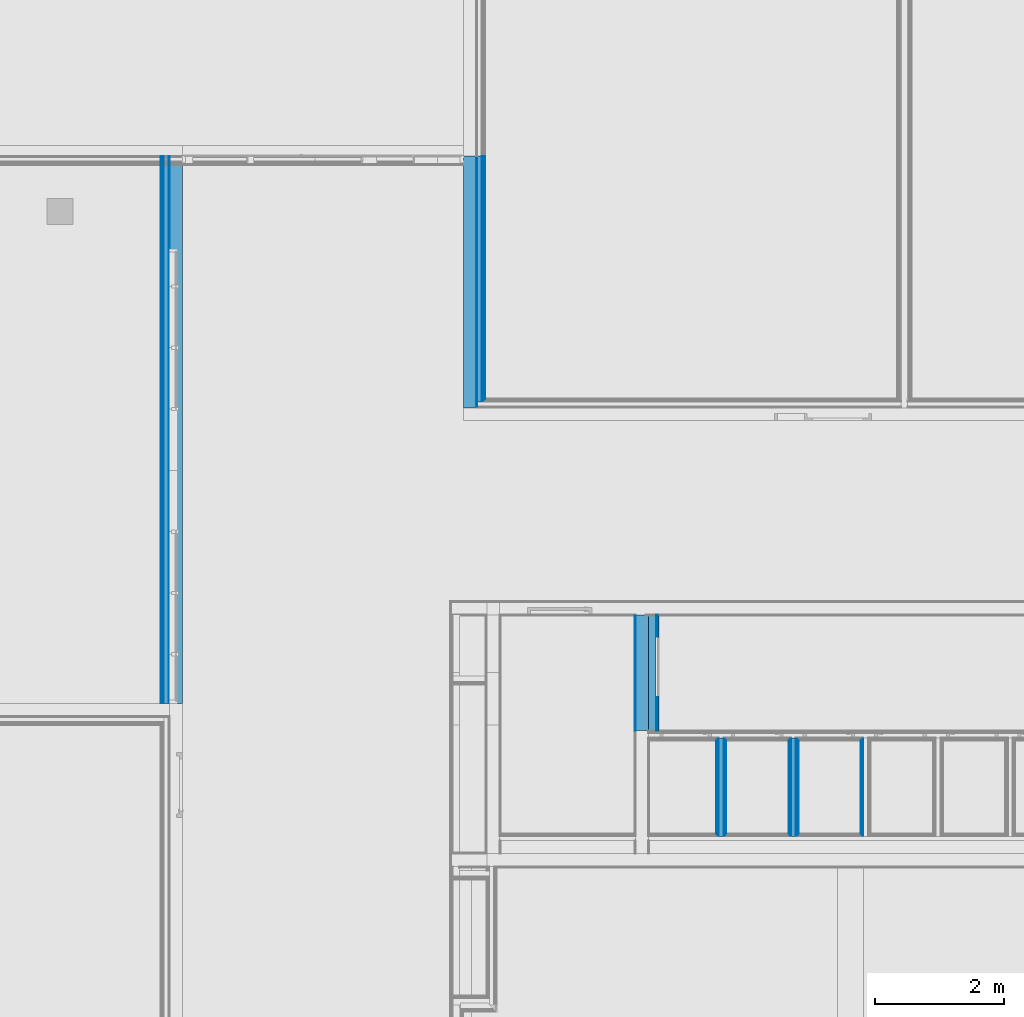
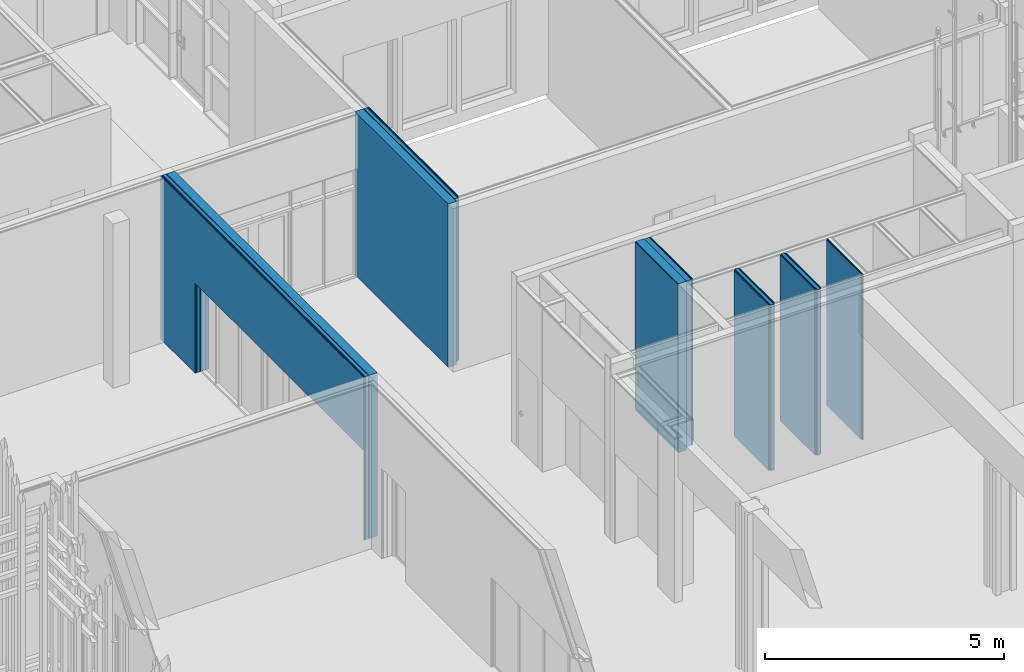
# One storey, part 182 of 260: 37 building element parts, 3 openings, 6 elements without a shape of their own.
"""IFC2X3 building model written with IfcOpenShell, lengths in millimetres."""

from ifc_helpers import new_model, entity, si_unit, converted_unit, derived_unit, money_unit, direction, frame, origin_with_axes, place, context, subcontext, project, spatial, faceted_brep, material, type_object, element, aggregate, save


model = new_model("IFC2X3")

# Units and contexts
model_context = context("Model", 3, precision=0.01, world=origin_with_axes(), true_north=direction((0.0, 1.0)))
body_context = subcontext(model_context, "Body", "Model", "MODEL_VIEW")
ifc_project = project(units=[si_unit("LENGTHUNIT", "METRE", prefix="MILLI"), si_unit("AREAUNIT", "SQUARE_METRE"), si_unit("VOLUMEUNIT", "CUBIC_METRE"), converted_unit("PLANEANGLEUNIT", "DEGREE", entity("IfcPlaneAngleMeasure", 0.0174532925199), si_unit("PLANEANGLEUNIT", "RADIAN"), dimensions=[0, 0, 0, 0, 0, 0, 0]), money_unit("EUR"), converted_unit("TIMEUNIT", "Year", entity("IfcTimeMeasure", 31556926.0), si_unit("TIMEUNIT", "SECOND"), dimensions=[0, 0, 1, 0, 0, 0, 0]), si_unit("MASSUNIT", "GRAM", prefix="KILO"), si_unit("THERMODYNAMICTEMPERATUREUNIT", "DEGREE_CELSIUS"), si_unit("LUMINOUSINTENSITYUNIT", "LUMEN"), si_unit("ENERGYUNIT", "JOULE", prefix="MEGA"), derived_unit("THERMALCONDUCTANCEUNIT", [(si_unit("POWERUNIT", "WATT"), 1), (si_unit("LENGTHUNIT", "METRE"), -1), (si_unit("THERMODYNAMICTEMPERATUREUNIT", "KELVIN"), -1)]), derived_unit("SPECIFICHEATCAPACITYUNIT", [(si_unit("ENERGYUNIT", "JOULE"), 1), (si_unit("MASSUNIT", "GRAM", prefix="KILO"), -1), (si_unit("THERMODYNAMICTEMPERATUREUNIT", "KELVIN"), -1)]), derived_unit("MASSDENSITYUNIT", [(si_unit("MASSUNIT", "GRAM", prefix="KILO"), 1), (si_unit("VOLUMEUNIT", "CUBIC_METRE"), -1)])], contexts=[model_context])

# Site, building, storey
site_placement = place(None, origin_with_axes())
site = spatial("IfcSite", under=ifc_project, at=site_placement, Name="Kolde pst 67a", CompositionType="ELEMENT")
building_placement = place(site_placement, origin_with_axes())
building = spatial("IfcBuilding", under=site, at=building_placement, Name="Riigigümnaasium", CompositionType="ELEMENT")
storey_placement = place(building_placement, origin_with_axes())
storey = spatial("IfcBuildingStorey", under=building, at=storey_placement, Name="1. korrus", CompositionType="ELEMENT", Elevation=0.0)

# Wall, opening, building element parts
wall_type_1 = type_object("IfcWallType", Name="SS-CLT-20/1_vill+krohv 340", PredefinedType="NOTDEFINED")
wall_1_placement = place(storey_placement, frame((31890.0027795, 48199.9805239, 0.0), z_axis=(0.0, 0.0, 1.0), x_axis=(0.0, 1.0, 0.0)))
wall_1 = element("IfcWall", 1, at=wall_1_placement, inside=storey, type_object=wall_type_1, Name="Sisesein")
opening_1_placement = place(wall_1_placement, frame((3520.61924472, 0.0, 0.0), z_axis=(0.0, 0.0, 1.0), x_axis=(1.0, 0.0, 0.0)))
element("IfcOpeningElement", 2, at=opening_1_placement, cuts=wall_1, Name="Ava", context=body_context, shape_type="Brep", body=[
    faceted_brep([(3519.14948544, 340.0, 0.0), (3519.14948544, 340.0, 2300.0), (3519.14948544, -680.0, 2300.0), (3519.14948544, -680.0, 0.0), (-3519.14948544, 340.0, 0.0), (-3519.14948544, 340.0, 2300.0), (-3519.14948544, -680.0, 2300.0), (-3519.14948544, -680.0, 0.0)], [[[0, 1, 2, 3]], [[0, 4, 5, 1]], [[1, 5, 6, 2]], [[3, 2, 6, 7]], [[4, 0, 3, 7]], [[5, 4, 7, 6]]]),
])
ifc_material_1 = material(Name="_VIIMISTLUSKIHT - viimistlus vastavalt SA osale")
building_element_part_1_placement = place(wall_1_placement, origin_with_axes())
building_element_part_1 = element("IfcBuildingElementPart", 3, at=building_element_part_1_placement, material=ifc_material_1, Name="_VIIMISTLUSKIHT - viimistlus vastavalt SA osale", context=body_context, shape_type="Brep", body=[
    faceted_brep([(1.4697592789, 330.0, 0.0), (1.4697592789, 330.0, 2300.0), (7039.76873016, 330.0, 2300.0), (7039.76873016, 330.0, 0.0), (8480.01742395, 330.0, 0.0), (8480.01742395, 330.0, 4170.0), (0.0, 330.0, 4170.0), (0.0, 330.0, 0.0), (1.4697592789, 340.0, 0.0), (1.4697592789, 340.0, 2300.0), (7039.76873016, 340.0, 2300.0), (7039.76873016, 340.0, 0.0), (8480.01742395, 340.0, 0.0), (8480.01742395, 340.0, 4170.0), (0.0, 340.0, 4170.0), (0.0, 340.0, 0.0)], [[[0, 1, 2, 3, 4, 5, 6, 7]], [[1, 0, 8, 9]], [[2, 1, 9, 10]], [[3, 2, 10, 11]], [[3, 11, 12, 4]], [[5, 4, 12, 13]], [[5, 13, 14, 6]], [[14, 15, 7, 6]], [[8, 0, 7, 15]], [[9, 8, 15, 14, 13, 12, 11, 10]]]),
])
ifc_material_2 = material(Name="_PLAATMATERJAL - tuletõkkekipsplaat, Knauf Red GKF või samaväärne")
building_element_part_2_placement = place(wall_1_placement, origin_with_axes())
building_element_part_2 = element("IfcBuildingElementPart", 4, at=building_element_part_2_placement, material=ifc_material_2, Name="_PLAATMATERJAL - tuletõkkekipsplaat, Knauf Red GKF või samaväärne", context=body_context, shape_type="Brep", body=[
    faceted_brep([(1.4697592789, 315.0, 0.0), (1.4697592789, 315.0, 2300.0), (7039.76873016, 315.0, 2300.0), (7039.76873016, 315.0, 0.0), (8480.01742395, 315.0, 0.0), (8480.01742395, 315.0, 4170.0), (0.0, 315.0, 4170.0), (0.0, 315.0, 0.0), (1.4697592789, 330.0, 0.0), (1.4697592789, 330.0, 2300.0), (7039.76873016, 330.0, 2300.0), (7039.76873016, 330.0, 0.0), (8480.01742395, 330.0, 0.0), (8480.01742395, 330.0, 4170.0), (0.0, 330.0, 4170.0), (0.0, 330.0, 0.0)], [[[0, 1, 2, 3, 4, 5, 6, 7]], [[1, 0, 8, 9]], [[2, 1, 9, 10]], [[3, 2, 10, 11]], [[3, 11, 12, 4]], [[5, 4, 12, 13]], [[5, 13, 14, 6]], [[14, 15, 7, 6]], [[8, 0, 7, 15]], [[9, 8, 15, 14, 13, 12, 11, 10]]]),
])
building_element_part_3_placement = place(wall_1_placement, origin_with_axes())
building_element_part_3 = element("IfcBuildingElementPart", 5, at=building_element_part_3_placement, material=ifc_material_2, Name="_PLAATMATERJAL - tuletõkkekipsplaat, Knauf Red GKF või samaväärne", context=body_context, shape_type="Brep", body=[
    faceted_brep([(1.4697592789, 300.0, 0.0), (1.4697592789, 300.0, 2300.0), (7039.76873016, 300.0, 2300.0), (7039.76873016, 300.0, 0.0), (8480.01742395, 300.0, 0.0), (8480.01742395, 300.0, 4170.0), (0.0, 300.0, 4170.0), (0.0, 300.0, 0.0), (1.4697592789, 315.0, 0.0), (1.4697592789, 315.0, 2300.0), (7039.76873016, 315.0, 2300.0), (7039.76873016, 315.0, 0.0), (8480.01742395, 315.0, 0.0), (8480.01742395, 315.0, 4170.0), (0.0, 315.0, 4170.0), (0.0, 315.0, 0.0)], [[[0, 1, 2, 3, 4, 5, 6, 7]], [[1, 0, 8, 9]], [[2, 1, 9, 10]], [[3, 2, 10, 11]], [[3, 11, 12, 4]], [[5, 4, 12, 13]], [[5, 13, 14, 6]], [[14, 15, 7, 6]], [[8, 0, 7, 15]], [[9, 8, 15, 14, 13, 12, 11, 10]]]),
])
ifc_material_3 = material(Name="_PLAATMATERJAL - OSB3 plaat")
building_element_part_4_placement = place(wall_1_placement, origin_with_axes())
building_element_part_4 = element("IfcBuildingElementPart", 6, at=building_element_part_4_placement, material=ifc_material_3, Name="_PLAATMATERJAL - OSB3 plaat", context=body_context, shape_type="Brep", body=[
    faceted_brep([(1.4697592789, 290.0, 0.0), (1.4697592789, 290.0, 2300.0), (7039.76873016, 290.0, 2300.0), (7039.76873016, 290.0, 0.0), (8480.01742395, 290.0, 0.0), (8480.01742395, 290.0, 4170.0), (0.0, 290.0, 4170.0), (0.0, 290.0, 0.0), (1.4697592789, 300.0, 0.0), (1.4697592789, 300.0, 2300.0), (7039.76873016, 300.0, 2300.0), (7039.76873016, 300.0, 0.0), (8480.01742395, 300.0, 0.0), (8480.01742395, 300.0, 4170.0), (0.0, 300.0, 4170.0), (0.0, 300.0, 0.0)], [[[0, 1, 2, 3, 4, 5, 6, 7]], [[1, 0, 8, 9]], [[2, 1, 9, 10]], [[3, 2, 10, 11]], [[3, 11, 12, 4]], [[5, 4, 12, 13]], [[5, 13, 14, 6]], [[14, 15, 7, 6]], [[8, 0, 7, 15]], [[9, 8, 15, 14, 13, 12, 11, 10]]]),
])
ifc_material_4 = material(Name="_KARKASS - metallkarkass CW 75/50/06 ja UW 75/40/06, samm 600, vahel mineraalvill, helineeldetegur αw = 1.0,  ISOVER ACOUSTIC 75mm või samaväärne")
building_element_part_5_placement = place(wall_1_placement, origin_with_axes())
building_element_part_5 = element("IfcBuildingElementPart", 7, at=building_element_part_5_placement, material=ifc_material_4, Name="_KARKASS - metallkarkass CW 75/50/06 ja UW 75/40/06, samm 600, vahel mineraalvill, helineeldetegur αw = 1.0,  ISOVER ACOUSTIC 75mm või samaväärne", context=body_context, shape_type="Brep", body=[
    faceted_brep([(1.4697592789, 215.0, 0.0), (1.4697592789, 215.0, 2300.0), (7039.76873016, 215.0, 2300.0), (7039.76873016, 215.0, 0.0), (8480.01742395, 215.0, 0.0), (8480.01742395, 215.0, 4170.0), (0.0, 215.0, 4170.0), (0.0, 215.0, 0.0), (1.4697592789, 290.0, 0.0), (1.4697592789, 290.0, 2300.0), (7039.76873016, 290.0, 2300.0), (7039.76873016, 290.0, 0.0), (8480.01742395, 290.0, 0.0), (8480.01742395, 290.0, 4170.0), (0.0, 290.0, 4170.0), (0.0, 290.0, 0.0)], [[[0, 1, 2, 3, 4, 5, 6, 7]], [[1, 0, 8, 9]], [[2, 1, 9, 10]], [[3, 2, 10, 11]], [[3, 11, 12, 4]], [[5, 4, 12, 13]], [[5, 13, 14, 6]], [[14, 15, 7, 6]], [[8, 0, 7, 15]], [[9, 8, 15, 14, 13, 12, 11, 10]]]),
])
ifc_material_5 = material(Name="_ÕHKVAHE")
building_element_part_6_placement = place(wall_1_placement, origin_with_axes())
building_element_part_6 = element("IfcBuildingElementPart", 8, at=building_element_part_6_placement, material=ifc_material_5, Name="_ÕHKVAHE", context=body_context, shape_type="Brep", body=[
    faceted_brep([(1.4697592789, 200.0, 0.0), (1.4697592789, 200.0, 2300.0), (7039.76873016, 200.0, 2300.0), (7039.76873016, 200.0, 0.0), (8480.01742395, 200.0, 0.0), (8480.01742395, 200.0, 4170.0), (0.0, 200.0, 4170.0), (0.0, 200.0, 0.0), (1.4697592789, 215.0, 0.0), (1.4697592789, 215.0, 2300.0), (7039.76873016, 215.0, 2300.0), (7039.76873016, 215.0, 0.0), (8480.01742395, 215.0, 0.0), (8480.01742395, 215.0, 4170.0), (0.0, 215.0, 4170.0), (0.0, 215.0, 0.0)], [[[0, 1, 2, 3, 4, 5, 6, 7]], [[1, 0, 8, 9]], [[2, 1, 9, 10]], [[3, 2, 10, 11]], [[3, 11, 12, 4]], [[5, 4, 12, 13]], [[5, 13, 14, 6]], [[14, 15, 7, 6]], [[8, 0, 7, 15]], [[9, 8, 15, 14, 13, 12, 11, 10]]]),
])
ifc_material_6 = material(Name="_KANDETARIND - CLT ristkihtliimpuit vastavalt EK osale, CLT paigaldusvuugid teibitakse ROTHOBLAAS teibiga")
building_element_part_7_placement = place(wall_1_placement, origin_with_axes())
building_element_part_7 = element("IfcBuildingElementPart", 9, at=building_element_part_7_placement, material=ifc_material_6, Name="_KANDETARIND - CLT ristkihtliimpuit vastavalt EK osale, CLT paigaldusvuugid teibitakse ROTHOBLAAS teibiga", context=body_context, shape_type="Brep", body=[
    faceted_brep([(1.4697592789, 0.0, 0.0), (1.4697592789, 0.0, 2300.0), (7039.76873016, 0.0, 2300.0), (7039.76873016, 0.0, 0.0), (8480.01742395, 0.0, 0.0), (8480.01742395, 0.0, 4170.0), (0.0, 0.0, 4170.0), (0.0, 0.0, 0.0), (1.4697592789, 200.0, 0.0), (1.4697592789, 200.0, 2300.0), (7039.76873016, 200.0, 2300.0), (7039.76873016, 200.0, 0.0), (8480.01742395, 200.0, 0.0), (8480.01742395, 200.0, 4170.0), (0.0, 200.0, 4170.0), (0.0, 200.0, 0.0)], [[[0, 1, 2, 3, 4, 5, 6, 7]], [[1, 0, 8, 9]], [[2, 1, 9, 10]], [[3, 2, 10, 11]], [[3, 11, 12, 4]], [[5, 4, 12, 13]], [[5, 13, 14, 6]], [[14, 15, 7, 6]], [[8, 0, 7, 15]], [[9, 8, 15, 14, 13, 12, 11, 10]]]),
])
aggregate(wall_1, [building_element_part_1, building_element_part_2, building_element_part_3, building_element_part_4, building_element_part_5, building_element_part_6, building_element_part_7])

# Wall, building element parts
wall_2_placement = place(storey_placement, frame((36439.99923, 56679.9979478, 0.0), z_axis=(0.0, 0.0, 1.0), x_axis=(0.0, -1.0, 0.0)))
wall_2 = element("IfcWall", 10, at=wall_2_placement, inside=storey, type_object=wall_type_1, Name="Sisesein")
building_element_part_8_placement = place(wall_2_placement, origin_with_axes())
building_element_part_8 = element("IfcBuildingElementPart", 11, at=building_element_part_8_placement, material=ifc_material_1, Name="_VIIMISTLUSKIHT - viimistlus vastavalt SA osale", context=body_context, shape_type="Brep", body=[
    faceted_brep([(0.0, 130.0, 4170.0), (0.0, 140.0, 4170.0), (0.0, 140.0, 0.0), (0.0, 130.0, 0.0), (3759.9977635, 140.0, 4170.0), (3759.9977635, 130.0, 4170.0), (3759.9977635, 140.0, 0.0), (3759.9977635, 130.0, 0.0)], [[[0, 1, 2, 3]], [[4, 1, 0, 5]], [[1, 4, 6, 2]], [[6, 7, 3, 2]], [[5, 0, 3, 7]], [[4, 5, 7, 6]]]),
])
building_element_part_9_placement = place(wall_2_placement, origin_with_axes())
building_element_part_9 = element("IfcBuildingElementPart", 12, at=building_element_part_9_placement, material=ifc_material_2, Name="_PLAATMATERJAL - tuletõkkekipsplaat, Knauf Red GKF või samaväärne", context=body_context, shape_type="Brep", body=[
    faceted_brep([(0.0, 115.0, 4170.0), (0.0, 130.0, 4170.0), (0.0, 130.0, 0.0), (0.0, 115.0, 0.0), (3769.9977635, 130.0, 4170.0), (3769.9977635, 115.0, 4170.0), (3769.9977635, 130.0, 0.0), (3769.9977635, 115.0, 0.0)], [[[0, 1, 2, 3]], [[4, 1, 0, 5]], [[1, 4, 6, 2]], [[6, 7, 3, 2]], [[5, 0, 3, 7]], [[4, 5, 7, 6]]]),
])
building_element_part_10_placement = place(wall_2_placement, origin_with_axes())
building_element_part_10 = element("IfcBuildingElementPart", 13, at=building_element_part_10_placement, material=ifc_material_2, Name="_PLAATMATERJAL - tuletõkkekipsplaat, Knauf Red GKF või samaväärne", context=body_context, shape_type="Brep", body=[
    faceted_brep([(0.0, 100.0, 4170.0), (0.0, 115.0, 4170.0), (0.0, 115.0, 0.0), (0.0, 100.0, 0.0), (3784.9977635, 115.0, 4170.0), (3784.9977635, 100.0, 4170.0), (3784.9977635, 115.0, 0.0), (3784.9977635, 100.0, 0.0)], [[[0, 1, 2, 3]], [[4, 1, 0, 5]], [[1, 4, 6, 2]], [[6, 7, 3, 2]], [[5, 0, 3, 7]], [[4, 5, 7, 6]]]),
])
building_element_part_11_placement = place(wall_2_placement, origin_with_axes())
building_element_part_11 = element("IfcBuildingElementPart", 14, at=building_element_part_11_placement, material=ifc_material_3, Name="_PLAATMATERJAL - OSB3 plaat", context=body_context, shape_type="Brep", body=[
    faceted_brep([(0.0, 90.0, 4170.0), (0.0, 100.0, 4170.0), (0.0, 100.0, 0.0), (0.0, 90.0, 0.0), (3799.9977635, 100.0, 4170.0), (3799.9977635, 90.0, 4170.0), (3799.9977635, 100.0, 0.0), (3799.9977635, 90.0, 0.0)], [[[0, 1, 2, 3]], [[4, 1, 0, 5]], [[1, 4, 6, 2]], [[6, 7, 3, 2]], [[5, 0, 3, 7]], [[4, 5, 7, 6]]]),
])
building_element_part_12_placement = place(wall_2_placement, origin_with_axes())
building_element_part_12 = element("IfcBuildingElementPart", 15, at=building_element_part_12_placement, material=ifc_material_4, Name="_KARKASS - metallkarkass CW 75/50/06 ja UW 75/40/06, samm 600, vahel mineraalvill, helineeldetegur αw = 1.0,  ISOVER ACOUSTIC 75mm või samaväärne", context=body_context, shape_type="Brep", body=[
    faceted_brep([(0.0, 15.0, 4170.0), (0.0, 90.0, 4170.0), (0.0, 90.0, 0.0), (0.0, 15.0, 0.0), (3809.9977635, 90.0, 4170.0), (3809.9977635, 15.0, 4170.0), (3809.9977635, 90.0, 0.0), (3809.9977635, 15.0, 0.0)], [[[0, 1, 2, 3]], [[4, 1, 0, 5]], [[1, 4, 6, 2]], [[6, 7, 3, 2]], [[5, 0, 3, 7]], [[4, 5, 7, 6]]]),
])
building_element_part_13_placement = place(wall_2_placement, origin_with_axes())
building_element_part_13 = element("IfcBuildingElementPart", 16, at=building_element_part_13_placement, material=ifc_material_5, Name="_ÕHKVAHE", context=body_context, shape_type="Brep", body=[
    faceted_brep([(0.0, 0.0, 4170.0), (0.0, 15.0, 4170.0), (0.0, 15.0, 0.0), (0.0, 0.0, 0.0), (3884.9977635, 15.0, 4170.0), (3884.9977635, 0.0, 4170.0), (3884.9977635, 15.0, 0.0), (3884.9977635, 0.0, 0.0)], [[[0, 1, 2, 3]], [[4, 1, 0, 5]], [[1, 4, 6, 2]], [[6, 7, 3, 2]], [[5, 0, 3, 7]], [[4, 5, 7, 6]]]),
])
building_element_part_14_placement = place(wall_2_placement, origin_with_axes())
building_element_part_14 = element("IfcBuildingElementPart", 17, at=building_element_part_14_placement, material=ifc_material_6, Name="_KANDETARIND - CLT ristkihtliimpuit vastavalt EK osale, CLT paigaldusvuugid teibitakse ROTHOBLAAS teibiga", context=body_context, shape_type="Brep", body=[
    faceted_brep([(0.0, -200.0, 4170.0), (0.0, 0.0, 4170.0), (0.0, 0.0, 0.0), (0.0, -200.0, 0.0), (3899.9977635, 0.0, 4170.0), (3899.9977635, -200.0, 4170.0), (3899.9977635, 0.0, 0.0), (3899.9977635, -200.0, 0.0)], [[[0, 1, 2, 3]], [[4, 1, 0, 5]], [[1, 4, 6, 2]], [[6, 7, 3, 2]], [[5, 0, 3, 7]], [[4, 5, 7, 6]]]),
])
aggregate(wall_2, [building_element_part_8, building_element_part_9, building_element_part_10, building_element_part_11, building_element_part_12, building_element_part_13, building_element_part_14])

wall_type_2 = type_object("IfcWallType", Name="SS-MK-7,5/1_plaaditud 155", PredefinedType="NOTDEFINED")
wall_3_placement = place(storey_placement, frame((42399.9854607, 46179.9999966, 0.0), z_axis=(0.0, 0.0, 1.0), x_axis=(0.0, 1.0, 0.0)))
wall_3 = element("IfcWall", 18, at=wall_3_placement, inside=storey, type_object=wall_type_2, Name="Sisesein")
building_element_part_15_placement = place(wall_3_placement, origin_with_axes())
building_element_part_15 = element("IfcBuildingElementPart", 19, at=building_element_part_15_placement, material=ifc_material_1, Name="_VIIMISTLUSKIHT - viimistlus vastavalt SA osale", context=body_context, shape_type="Brep", body=[
    faceted_brep([(1443.49996421, 0.0, 4230.0), (1443.49996421, -15.0, 4230.0), (1443.49996421, -15.0, 0.0), (1443.49996421, 0.0, 0.0), (0.0, -15.0, 4230.0), (0.0, 0.0, 4230.0), (0.0, -15.0, 0.0), (0.0, 0.0, 0.0)], [[[0, 1, 2, 3]], [[4, 1, 0, 5]], [[1, 4, 6, 2]], [[3, 2, 6, 7]], [[5, 0, 3, 7]], [[4, 5, 7, 6]]]),
])
ifc_material_7 = material(Name="_PLAATMATERJAL - kipsplaat veekindel")
building_element_part_16_placement = place(wall_3_placement, origin_with_axes())
building_element_part_16 = element("IfcBuildingElementPart", 20, at=building_element_part_16_placement, material=ifc_material_7, Name="_PLAATMATERJAL - kipsplaat veekindel", context=body_context, shape_type="Brep", body=[
    faceted_brep([(1458.49996421, -15.0, 4230.0), (1458.49996421, -27.5, 4230.0), (1458.49996421, -27.5, 0.0), (1458.49996421, -15.0, 0.0), (-15.0, -27.5, 4230.0), (-15.0, -15.0, 4230.0), (-15.0, -27.5, 0.0), (-15.0, -15.0, 0.0)], [[[0, 1, 2, 3]], [[4, 1, 0, 5]], [[1, 4, 6, 2]], [[3, 2, 6, 7]], [[5, 0, 3, 7]], [[4, 5, 7, 6]]]),
])
building_element_part_17_placement = place(wall_3_placement, origin_with_axes())
building_element_part_17 = element("IfcBuildingElementPart", 21, at=building_element_part_17_placement, material=ifc_material_7, Name="_PLAATMATERJAL - kipsplaat veekindel", context=body_context, shape_type="Brep", body=[
    faceted_brep([(1470.99996421, -27.5, 4230.0), (1470.99996421, -40.0, 4230.0), (1470.99996421, -40.0, 0.0), (1470.99996421, -27.5, 0.0), (-27.5, -40.0, 4230.0), (-27.5, -27.5, 4230.0), (-27.5, -40.0, 0.0), (-27.5, -27.5, 0.0)], [[[0, 1, 2, 3]], [[4, 1, 0, 5]], [[1, 4, 6, 2]], [[3, 2, 6, 7]], [[5, 0, 3, 7]], [[4, 5, 7, 6]]]),
])
aggregate(wall_3, [building_element_part_15, building_element_part_16, building_element_part_17])

wall_4_placement = place(storey_placement, frame((41279.9854607, 46179.9999966, 0.0), z_axis=(0.0, 0.0, 1.0), x_axis=(0.0, 1.0, 0.0)))
wall_4 = element("IfcWall", 22, at=wall_4_placement, inside=storey, type_object=wall_type_2, Name="Sisesein")
building_element_part_18_placement = place(wall_4_placement, origin_with_axes())
building_element_part_18 = element("IfcBuildingElementPart", 23, at=building_element_part_18_placement, material=ifc_material_1, Name="_VIIMISTLUSKIHT - viimistlus vastavalt SA osale", context=body_context, shape_type="Brep", body=[
    faceted_brep([(1443.49996421, 0.0, 4230.0), (1443.49996421, -15.0, 4230.0), (1443.49996421, -15.0, 0.0), (1443.49996421, 0.0, 0.0), (0.0, -15.0, 4230.0), (0.0, 0.0, 4230.0), (0.0, -15.0, 0.0), (0.0, 0.0, 0.0)], [[[0, 1, 2, 3]], [[4, 1, 0, 5]], [[1, 4, 6, 2]], [[3, 2, 6, 7]], [[5, 0, 3, 7]], [[4, 5, 7, 6]]]),
])
building_element_part_19_placement = place(wall_4_placement, origin_with_axes())
building_element_part_19 = element("IfcBuildingElementPart", 24, at=building_element_part_19_placement, material=ifc_material_7, Name="_PLAATMATERJAL - kipsplaat veekindel", context=body_context, shape_type="Brep", body=[
    faceted_brep([(1458.49996421, -15.0, 4230.0), (1458.49996421, -27.5, 4230.0), (1458.49996421, -27.5, 0.0), (1458.49996421, -15.0, 0.0), (-15.0, -27.5, 4230.0), (-15.0, -15.0, 4230.0), (-15.0, -27.5, 0.0), (-15.0, -15.0, 0.0)], [[[0, 1, 2, 3]], [[4, 1, 0, 5]], [[1, 4, 6, 2]], [[3, 2, 6, 7]], [[5, 0, 3, 7]], [[4, 5, 7, 6]]]),
])
building_element_part_20_placement = place(wall_4_placement, origin_with_axes())
building_element_part_20 = element("IfcBuildingElementPart", 25, at=building_element_part_20_placement, material=ifc_material_7, Name="_PLAATMATERJAL - kipsplaat veekindel", context=body_context, shape_type="Brep", body=[
    faceted_brep([(1470.99996421, -27.5, 4230.0), (1470.99996421, -40.0, 4230.0), (1470.99996421, -40.0, 0.0), (1470.99996421, -27.5, 0.0), (-27.5, -40.0, 4230.0), (-27.5, -27.5, 4230.0), (-27.5, -40.0, 0.0), (-27.5, -27.5, 0.0)], [[[0, 1, 2, 3]], [[4, 1, 0, 5]], [[1, 4, 6, 2]], [[3, 2, 6, 7]], [[5, 0, 3, 7]], [[4, 5, 7, 6]]]),
])
ifc_material_8 = material(Name="_KARKASS - metallkarkass CW 75/50, mineraalvill karkassi vahel")
building_element_part_21_placement = place(wall_4_placement, origin_with_axes())
building_element_part_21 = element("IfcBuildingElementPart", 26, at=building_element_part_21_placement, material=ifc_material_8, Name="_KARKASS - metallkarkass CW 75/50, mineraalvill karkassi vahel", context=body_context, shape_type="Brep", body=[
    faceted_brep([(1483.49996421, -40.0, 4230.0), (1483.49996421, -115.0, 4230.0), (1483.49996421, -115.0, 0.0), (1483.49996421, -40.0, 0.0), (-40.0, -115.0, 4230.0), (-40.0, -40.0, 4230.0), (-40.0, -115.0, 0.0), (-40.0, -40.0, 0.0)], [[[0, 1, 2, 3]], [[4, 1, 0, 5]], [[1, 4, 6, 2]], [[3, 2, 6, 7]], [[5, 0, 3, 7]], [[4, 5, 7, 6]]]),
])
building_element_part_22_placement = place(wall_4_placement, origin_with_axes())
building_element_part_22 = element("IfcBuildingElementPart", 27, at=building_element_part_22_placement, material=ifc_material_7, Name="_PLAATMATERJAL - kipsplaat veekindel", context=body_context, shape_type="Brep", body=[
    faceted_brep([(1470.99996421, -115.0, 4230.0), (1470.99996421, -127.5, 4230.0), (1470.99996421, -127.5, 0.0), (1470.99996421, -115.0, 0.0), (-27.5, -127.5, 4230.0), (-27.5, -115.0, 4230.0), (-27.5, -127.5, 0.0), (-27.5, -115.0, 0.0)], [[[0, 1, 2, 3]], [[4, 1, 0, 5]], [[1, 4, 6, 2]], [[3, 2, 6, 7]], [[5, 0, 3, 7]], [[4, 5, 7, 6]]]),
])
building_element_part_23_placement = place(wall_4_placement, origin_with_axes())
building_element_part_23 = element("IfcBuildingElementPart", 28, at=building_element_part_23_placement, material=ifc_material_7, Name="_PLAATMATERJAL - kipsplaat veekindel", context=body_context, shape_type="Brep", body=[
    faceted_brep([(1458.49996421, -127.5, 4230.0), (1458.49996421, -140.0, 4230.0), (1458.49996421, -140.0, 0.0), (1458.49996421, -127.5, 0.0), (-15.0, -140.0, 4230.0), (-15.0, -127.5, 4230.0), (-15.0, -140.0, 0.0), (-15.0, -127.5, 0.0)], [[[0, 1, 2, 3]], [[4, 1, 0, 5]], [[1, 4, 6, 2]], [[3, 2, 6, 7]], [[5, 0, 3, 7]], [[4, 5, 7, 6]]]),
])
building_element_part_24_placement = place(wall_4_placement, origin_with_axes())
building_element_part_24 = element("IfcBuildingElementPart", 29, at=building_element_part_24_placement, material=ifc_material_1, Name="_VIIMISTLUSKIHT - viimistlus vastavalt SA osale", context=body_context, shape_type="Brep", body=[
    faceted_brep([(1443.49996421, -140.0, 4230.0), (1443.49996421, -155.0, 4230.0), (1443.49996421, -155.0, 0.0), (1443.49996421, -140.0, 0.0), (0.0, -155.0, 4230.0), (0.0, -140.0, 4230.0), (0.0, -155.0, 0.0), (0.0, -140.0, 0.0)], [[[0, 1, 2, 3]], [[4, 1, 0, 5]], [[1, 4, 6, 2]], [[3, 2, 6, 7]], [[5, 0, 3, 7]], [[4, 5, 7, 6]]]),
])
aggregate(wall_4, [building_element_part_18, building_element_part_19, building_element_part_20, building_element_part_21, building_element_part_22, building_element_part_23, building_element_part_24])

wall_5_placement = place(storey_placement, frame((40159.9854607, 46179.9999966, 0.0), z_axis=(0.0, 0.0, 1.0), x_axis=(0.0, 1.0, 0.0)))
wall_5 = element("IfcWall", 30, at=wall_5_placement, inside=storey, type_object=wall_type_2, Name="Sisesein")
building_element_part_25_placement = place(wall_5_placement, origin_with_axes())
building_element_part_25 = element("IfcBuildingElementPart", 31, at=building_element_part_25_placement, material=ifc_material_1, Name="_VIIMISTLUSKIHT - viimistlus vastavalt SA osale", context=body_context, shape_type="Brep", body=[
    faceted_brep([(1443.49996421, 0.0, 4230.0), (1443.49996421, -15.0, 4230.0), (1443.49996421, -15.0, 0.0), (1443.49996421, 0.0, 0.0), (0.0, -15.0, 4230.0), (0.0, 0.0, 4230.0), (0.0, -15.0, 0.0), (0.0, 0.0, 0.0)], [[[0, 1, 2, 3]], [[4, 1, 0, 5]], [[1, 4, 6, 2]], [[3, 2, 6, 7]], [[5, 0, 3, 7]], [[4, 5, 7, 6]]]),
])
building_element_part_26_placement = place(wall_5_placement, origin_with_axes())
building_element_part_26 = element("IfcBuildingElementPart", 32, at=building_element_part_26_placement, material=ifc_material_7, Name="_PLAATMATERJAL - kipsplaat veekindel", context=body_context, shape_type="Brep", body=[
    faceted_brep([(1458.49996421, -15.0, 4230.0), (1458.49996421, -27.5, 4230.0), (1458.49996421, -27.5, 0.0), (1458.49996421, -15.0, 0.0), (-15.0, -27.5, 4230.0), (-15.0, -15.0, 4230.0), (-15.0, -27.5, 0.0), (-15.0, -15.0, 0.0)], [[[0, 1, 2, 3]], [[4, 1, 0, 5]], [[1, 4, 6, 2]], [[3, 2, 6, 7]], [[5, 0, 3, 7]], [[4, 5, 7, 6]]]),
])
building_element_part_27_placement = place(wall_5_placement, origin_with_axes())
building_element_part_27 = element("IfcBuildingElementPart", 33, at=building_element_part_27_placement, material=ifc_material_7, Name="_PLAATMATERJAL - kipsplaat veekindel", context=body_context, shape_type="Brep", body=[
    faceted_brep([(1470.99996421, -27.5, 4230.0), (1470.99996421, -40.0, 4230.0), (1470.99996421, -40.0, 0.0), (1470.99996421, -27.5, 0.0), (-27.5, -40.0, 4230.0), (-27.5, -27.5, 4230.0), (-27.5, -40.0, 0.0), (-27.5, -27.5, 0.0)], [[[0, 1, 2, 3]], [[4, 1, 0, 5]], [[1, 4, 6, 2]], [[3, 2, 6, 7]], [[5, 0, 3, 7]], [[4, 5, 7, 6]]]),
])
building_element_part_28_placement = place(wall_5_placement, origin_with_axes())
building_element_part_28 = element("IfcBuildingElementPart", 34, at=building_element_part_28_placement, material=ifc_material_8, Name="_KARKASS - metallkarkass CW 75/50, mineraalvill karkassi vahel", context=body_context, shape_type="Brep", body=[
    faceted_brep([(1483.49996421, -40.0, 4230.0), (1483.49996421, -115.0, 4230.0), (1483.49996421, -115.0, 0.0), (1483.49996421, -40.0, 0.0), (-40.0, -115.0, 4230.0), (-40.0, -40.0, 4230.0), (-40.0, -115.0, 0.0), (-40.0, -40.0, 0.0)], [[[0, 1, 2, 3]], [[4, 1, 0, 5]], [[1, 4, 6, 2]], [[3, 2, 6, 7]], [[5, 0, 3, 7]], [[4, 5, 7, 6]]]),
])
building_element_part_29_placement = place(wall_5_placement, origin_with_axes())
building_element_part_29 = element("IfcBuildingElementPart", 35, at=building_element_part_29_placement, material=ifc_material_7, Name="_PLAATMATERJAL - kipsplaat veekindel", context=body_context, shape_type="Brep", body=[
    faceted_brep([(1470.99996421, -115.0, 4230.0), (1470.99996421, -127.5, 4230.0), (1470.99996421, -127.5, 0.0), (1470.99996421, -115.0, 0.0), (-27.5, -127.5, 4230.0), (-27.5, -115.0, 4230.0), (-27.5, -127.5, 0.0), (-27.5, -115.0, 0.0)], [[[0, 1, 2, 3]], [[4, 1, 0, 5]], [[1, 4, 6, 2]], [[3, 2, 6, 7]], [[5, 0, 3, 7]], [[4, 5, 7, 6]]]),
])
building_element_part_30_placement = place(wall_5_placement, origin_with_axes())
building_element_part_30 = element("IfcBuildingElementPart", 36, at=building_element_part_30_placement, material=ifc_material_7, Name="_PLAATMATERJAL - kipsplaat veekindel", context=body_context, shape_type="Brep", body=[
    faceted_brep([(1458.49996421, -127.5, 4230.0), (1458.49996421, -140.0, 4230.0), (1458.49996421, -140.0, 0.0), (1458.49996421, -127.5, 0.0), (-15.0, -140.0, 4230.0), (-15.0, -127.5, 4230.0), (-15.0, -140.0, 0.0), (-15.0, -127.5, 0.0)], [[[0, 1, 2, 3]], [[4, 1, 0, 5]], [[1, 4, 6, 2]], [[3, 2, 6, 7]], [[5, 0, 3, 7]], [[4, 5, 7, 6]]]),
])
building_element_part_31_placement = place(wall_5_placement, origin_with_axes())
building_element_part_31 = element("IfcBuildingElementPart", 37, at=building_element_part_31_placement, material=ifc_material_1, Name="_VIIMISTLUSKIHT - viimistlus vastavalt SA osale", context=body_context, shape_type="Brep", body=[
    faceted_brep([(1443.49996421, -140.0, 4230.0), (1443.49996421, -155.0, 4230.0), (1443.49996421, -155.0, 0.0), (1443.49996421, -140.0, 0.0), (0.0, -155.0, 4230.0), (0.0, -140.0, 4230.0), (0.0, -155.0, 0.0), (0.0, -140.0, 0.0)], [[[0, 1, 2, 3]], [[4, 1, 0, 5]], [[1, 4, 6, 2]], [[3, 2, 6, 7]], [[5, 0, 3, 7]], [[4, 5, 7, 6]]]),
])
aggregate(wall_5, [building_element_part_25, building_element_part_26, building_element_part_27, building_element_part_28, building_element_part_29, building_element_part_30, building_element_part_31])

# Wall, openings, building element parts
wall_type_3 = type_object("IfcWallType", Name="SS-RB-20/12_+2 plaat +kollektor 375", PredefinedType="NOTDEFINED")
wall_6_placement = place(storey_placement, frame((39109.8305113, 47778.4999608, -80.0), z_axis=(0.0, 0.0, 1.0), x_axis=(0.0, 1.0, 0.0)))
wall_6 = element("IfcWall", 38, at=wall_6_placement, inside=storey, type_object=wall_type_3, Name="Sisesein")
opening_2_placement = place(wall_6_placement, frame((-47778.4999608, 39109.8305113, 80.0), z_axis=(0.0, 0.0, 1.0), x_axis=(0.0, -1.0, 0.0)))
element("IfcOpeningElement", 39, at=opening_2_placement, cuts=wall_6, Name="Tulekustuti nišš vastavalt SA osale", ObjectType="OPENING", context=body_context, shape_type="Brep", body=[
    faceted_brep([(39269.8305113, 49320.0, 780.0), (39269.8305113, 49320.0, 2100.0), (39069.8305113, 49320.0, 2100.0), (39069.8305113, 49320.0, 780.0), (39269.8305113, 49570.0, 780.0), (39269.8305113, 49570.0, 2100.0), (39069.8305113, 49570.0, 2100.0), (39069.8305113, 49570.0, 780.0)], [[[0, 1, 2, 3]], [[0, 4, 5, 1]], [[1, 5, 6, 2]], [[3, 2, 6, 7]], [[4, 0, 3, 7]], [[5, 4, 7, 6]]]),
])
opening_3_placement = place(wall_6_placement, frame((-47778.4999608, 39109.8305113, 80.0), z_axis=(0.0, 0.0, 1.0), x_axis=(0.0, -1.0, 0.0)))
element("IfcOpeningElement", 40, at=opening_3_placement, cuts=wall_6, Name="Tulekustuti nišš vastavalt SA osale", ObjectType="OPENING", context=body_context, shape_type="Brep", body=[
    faceted_brep([(39269.8305113, 48319.9999599, 0.0), (39269.8305113, 48319.9999599, 900.0), (39109.8305113, 48319.9999599, 900.0), (39109.8305113, 48319.9999599, 0.0), (39269.8305113, 49219.9999599, 0.0), (39269.8305113, 49219.9999599, 900.0), (39109.8305113, 49219.9999599, 900.0), (39109.8305113, 49219.9999599, 0.0)], [[[0, 1, 2, 3]], [[0, 4, 5, 1]], [[1, 5, 6, 2]], [[3, 2, 6, 7]], [[4, 0, 3, 7]], [[5, 4, 7, 6]]]),
])
building_element_part_32_placement = place(wall_6_placement, origin_with_axes())
building_element_part_32 = element("IfcBuildingElementPart", 41, at=building_element_part_32_placement, material=ifc_material_1, Name="_VIIMISTLUSKIHT - viimistlus vastavalt SA osale", context=body_context, shape_type="Brep", body=[
    faceted_brep([(0.0, 200.0, 80.0), (1776.49999905, 200.0, 80.0), (1776.49999905, 200.0, 4310.0), (0.0, 200.0, 4310.0), (1776.49999905, 215.0, 80.0), (0.0, 215.0, 80.0), (1776.49999905, 215.0, 4310.0), (0.0, 215.0, 4310.0)], [[[0, 1, 2, 3]], [[4, 1, 0, 5]], [[1, 4, 6, 2]], [[3, 2, 6, 7]], [[5, 0, 3, 7]], [[4, 5, 7, 6]]]),
])
ifc_material_9 = material(Name="_KANDETARIND - monteeritav raudbetoon vastavalt EK osale")
building_element_part_33_placement = place(wall_6_placement, origin_with_axes())
building_element_part_33 = element("IfcBuildingElementPart", 42, at=building_element_part_33_placement, material=ifc_material_9, Name="_KANDETARIND - monteeritav raudbetoon vastavalt EK osale", context=body_context, shape_type="Brep", body=[
    faceted_brep([(1791.5000392, 200.0, 4310.0), (1791.5000392, 0.0, 4310.0), (1791.49999905, 0.0, 2180.0), (1791.49999905, 40.0, 2180.0), (1791.49999905, 40.0, 860.0), (1791.49999905, 0.0, 860.0), (1791.49999905, 0.0, 0.0), (1791.49999905, 200.0, 0.0), (0.0, 0.0, 4310.0), (0.0, 200.0, 4310.0), (0.0, 0.0, 0.0), (1541.5000392, 0.0, 860.0), (1541.5000392, 0.0, 2180.0), (1541.5000392, 40.0, 2180.0), (1541.5000392, 40.0, 860.0), (0.0, 200.0, 0.0)], [[[0, 1, 2, 3, 4, 5, 6, 7]], [[8, 1, 0, 9]], [[1, 8, 10, 6, 5, 11, 12, 2]], [[3, 2, 12, 13]], [[4, 3, 13, 14]], [[14, 11, 5, 4]], [[7, 6, 10, 15]], [[9, 0, 7, 15]], [[8, 9, 15, 10]], [[13, 12, 11, 14]]]),
])
ifc_material_10 = material(Name="_KARKASS - eriprofiilkinnitus vastavalt sisemisele plaatviimistlusele")
building_element_part_34_placement = place(wall_6_placement, origin_with_axes())
building_element_part_34 = element("IfcBuildingElementPart", 43, at=building_element_part_34_placement, material=ifc_material_10, Name="_KARKASS - eriprofiilkinnitus vastavalt sisemisele plaatviimistlusele", context=body_context, shape_type="Brep", body=[
    faceted_brep([(1441.49999905, -120.0, 980.0), (1441.49999905, -120.0, 80.0), (1791.49999905, -120.0, 80.0), (1791.49999905, -120.0, 860.0), (1541.5000392, -120.0, 860.0), (1541.5000392, -120.0, 2180.0), (1791.49999905, -120.0, 2180.0), (1791.49999905, -120.0, 4250.0), (1776.49999905, -120.0, 4250.0), (1776.50000565, -120.0, 4310.0), (0.0, -120.0, 4310.0), (0.0, -120.0, 80.0), (541.499999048, -120.0, 80.0), (541.499999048, -120.0, 980.0), (1441.49999905, 1.37134748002e-09, 980.0), (1441.49999905, 1.37134748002e-09, 80.0), (1791.49999905, 0.0, 80.0), (1791.49999905, 0.0, 860.0), (1541.5000392, 0.0, 860.0), (1541.5000392, 0.0, 2180.0), (1791.49999905, 0.0, 2180.0), (1791.49999905, 0.0, 4250.0), (1776.49999905, 0.0, 4250.0), (1776.50000577, 0.0, 4310.0), (0.0, 0.0, 4310.0), (0.0, 0.0, 80.0), (541.499999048, 1.37134748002e-09, 80.0), (541.499999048, 1.37134748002e-09, 980.0)], [[[0, 1, 2, 3, 4, 5, 6, 7, 8, 9, 10, 11, 12, 13]], [[14, 15, 1, 0]], [[15, 16, 2, 1]], [[3, 2, 16, 17]], [[17, 18, 4, 3]], [[18, 19, 5, 4]], [[19, 20, 6, 5]], [[20, 21, 7, 6]], [[22, 8, 7, 21]], [[22, 23, 9, 8]], [[24, 10, 9, 23]], [[24, 25, 11, 10]], [[25, 26, 12, 11]], [[13, 12, 26, 27]], [[27, 14, 0, 13]], [[17, 16, 15, 14, 27, 26, 25, 24, 23, 22, 21, 20, 19, 18]]]),
])
building_element_part_35_placement = place(wall_6_placement, origin_with_axes())
building_element_part_35 = element("IfcBuildingElementPart", 44, at=building_element_part_35_placement, material=ifc_material_7, Name="_PLAATMATERJAL - kipsplaat veekindel", context=body_context, shape_type="Brep", body=[
    faceted_brep([(541.499986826, -132.499994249, 980.0), (541.499986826, -132.499994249, 1580.0), (1441.50000496, -132.499994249, 1580.0), (1441.50000496, -132.499994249, 980.0), (1441.49999905, -132.5, 80.0), (1791.49999905, -132.5, 80.0), (1791.49999905, -132.5, 860.0), (1541.5000392, -132.5, 860.0), (1541.5000392, -132.5, 2180.0), (1791.49999905, -132.5, 2180.0), (1791.49999905, -132.5, 4250.0), (1776.49999905, -132.5, 4250.0), (1776.50000564, -132.5, 4310.0), (0.0, -132.5, 4310.0), (0.0, -132.5, 80.0), (541.499999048, -132.5, 80.0), (541.499986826, -119.999994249, 980.0), (541.499986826, -119.999994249, 1580.0), (1441.50000496, -119.999994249, 1580.0), (1441.50000496, -119.999994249, 980.0), (1441.49999905, -120.0, 80.0), (1791.49999905, -120.0, 80.0), (1791.49999905, -120.0, 860.0), (1541.5000392, -120.0, 860.0), (1541.5000392, -120.0, 2180.0), (1791.49999905, -120.0, 2180.0), (1791.49999905, -120.0, 4250.0), (1776.49999905, -120.0, 4250.0), (1776.50000565, -120.0, 4310.0), (0.0, -120.0, 4310.0), (0.0, -120.0, 80.0), (541.499999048, -120.0, 80.0)], [[[0, 1, 2, 3, 4, 5, 6, 7, 8, 9, 10, 11, 12, 13, 14, 15]], [[1, 0, 16, 17]], [[2, 1, 17, 18]], [[3, 2, 18, 19]], [[3, 19, 20, 4]], [[20, 21, 5, 4]], [[6, 5, 21, 22]], [[22, 23, 7, 6]], [[23, 24, 8, 7]], [[24, 25, 9, 8]], [[25, 26, 10, 9]], [[27, 11, 10, 26]], [[27, 28, 12, 11]], [[29, 13, 12, 28]], [[29, 30, 14, 13]], [[30, 31, 15, 14]], [[16, 0, 15, 31]], [[17, 16, 31, 30, 29, 28, 27, 26, 25, 24, 23, 22, 21, 20, 19, 18]]]),
])
building_element_part_36_placement = place(wall_6_placement, origin_with_axes())
building_element_part_36 = element("IfcBuildingElementPart", 45, at=building_element_part_36_placement, material=ifc_material_7, Name="_PLAATMATERJAL - kipsplaat veekindel", context=body_context, shape_type="Brep", body=[
    faceted_brep([(541.499986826, -144.999994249, 980.0), (541.499986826, -144.999994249, 1580.0), (1441.50000496, -144.999994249, 1580.0), (1441.50000496, -144.999994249, 980.0), (1441.49999905, -145.0, 80.0), (1791.49999905, -145.0, 80.0), (1791.49999905, -145.0, 860.0), (1541.5000392, -145.0, 860.0), (1541.5000392, -145.0, 2180.0), (1791.49999905, -145.0, 2180.0), (1791.49999905, -145.0, 4250.0), (1776.49999905, -145.0, 4250.0), (1776.50000563, -145.0, 4310.0), (0.0, -145.0, 4310.0), (0.0, -145.0, 80.0), (541.499999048, -145.0, 80.0), (541.499986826, -132.499994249, 980.0), (541.499986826, -132.499994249, 1580.0), (1441.50000496, -132.499994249, 1580.0), (1441.50000496, -132.499994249, 980.0), (1441.49999905, -132.5, 80.0), (1791.49999905, -132.5, 80.0), (1791.49999905, -132.5, 860.0), (1541.5000392, -132.5, 860.0), (1541.5000392, -132.5, 2180.0), (1791.49999905, -132.5, 2180.0), (1791.49999905, -132.5, 4250.0), (1776.49999905, -132.5, 4250.0), (1776.50000564, -132.5, 4310.0), (0.0, -132.5, 4310.0), (0.0, -132.5, 80.0), (541.499999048, -132.5, 80.0)], [[[0, 1, 2, 3, 4, 5, 6, 7, 8, 9, 10, 11, 12, 13, 14, 15]], [[1, 0, 16, 17]], [[2, 1, 17, 18]], [[3, 2, 18, 19]], [[3, 19, 20, 4]], [[20, 21, 5, 4]], [[6, 5, 21, 22]], [[22, 23, 7, 6]], [[23, 24, 8, 7]], [[24, 25, 9, 8]], [[25, 26, 10, 9]], [[27, 11, 10, 26]], [[27, 28, 12, 11]], [[29, 13, 12, 28]], [[29, 30, 14, 13]], [[30, 31, 15, 14]], [[16, 0, 15, 31]], [[17, 16, 31, 30, 29, 28, 27, 26, 25, 24, 23, 22, 21, 20, 19, 18]]]),
])
building_element_part_37_placement = place(wall_6_placement, origin_with_axes())
building_element_part_37 = element("IfcBuildingElementPart", 46, at=building_element_part_37_placement, material=ifc_material_1, Name="_VIIMISTLUSKIHT - viimistlus vastavalt SA osale", context=body_context, shape_type="Brep", body=[
    faceted_brep([(541.499986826, -159.999994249, 980.0), (541.499986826, -159.999994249, 1580.0), (1441.50000496, -159.999994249, 1580.0), (1441.50000496, -159.999994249, 980.0), (1441.49999905, -159.999999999, 80.0), (1776.49999905, -160.0, 80.0), (1776.49999905, -160.0, 860.0), (1541.5000392, -160.0, 860.0), (1541.5000392, -160.0, 2180.0), (1776.49999905, -160.0, 2180.0), (1776.49999905, -160.0, 4310.0), (0.0, -160.0, 4310.0), (0.0, -160.0, 80.0), (541.499999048, -159.999999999, 80.0), (541.499986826, -144.999994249, 980.0), (541.499986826, -144.999994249, 1580.0), (1441.50000496, -144.999994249, 1580.0), (1441.50000496, -144.999994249, 980.0), (1441.49999905, -145.0, 80.0), (1776.49999905, -145.0, 80.0), (1776.49999905, -145.0, 860.0), (1541.5000392, -145.0, 860.0), (1541.5000392, -145.0, 2180.0), (1776.49999905, -145.0, 2180.0), (1776.49999905, -145.0, 4310.0), (0.0, -145.0, 4310.0), (0.0, -145.0, 80.0), (541.499999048, -145.0, 80.0)], [[[0, 1, 2, 3, 4, 5, 6, 7, 8, 9, 10, 11, 12, 13]], [[1, 0, 14, 15]], [[2, 1, 15, 16]], [[3, 2, 16, 17]], [[3, 17, 18, 4]], [[4, 18, 19, 5]], [[20, 6, 5, 19]], [[6, 20, 21, 7]], [[7, 21, 22, 8]], [[8, 22, 23, 9]], [[9, 23, 24, 10]], [[24, 25, 11, 10]], [[11, 25, 26, 12]], [[12, 26, 27, 13]], [[14, 0, 13, 27]], [[15, 14, 27, 26, 25, 24, 23, 22, 21, 20, 19, 18, 17, 16]]]),
])
aggregate(wall_6, [building_element_part_32, building_element_part_33, building_element_part_34, building_element_part_35, building_element_part_36, building_element_part_37])

save(model, "model.ifc")
